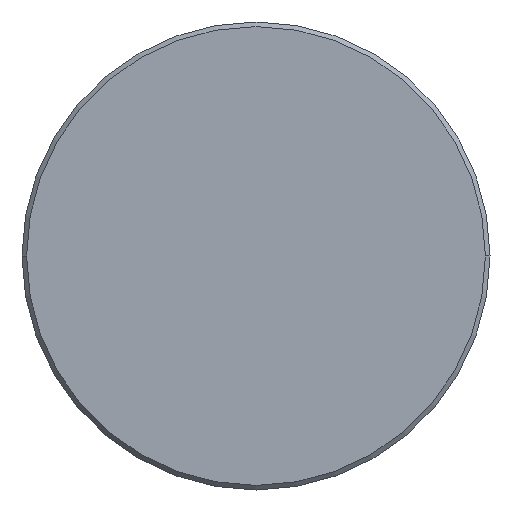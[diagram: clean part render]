
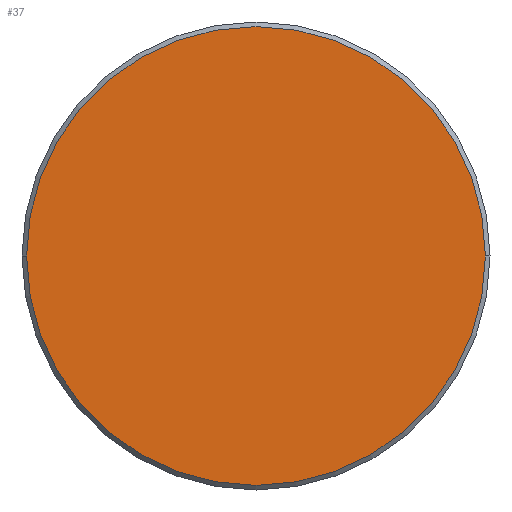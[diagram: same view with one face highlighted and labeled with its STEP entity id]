
A CAD part, left-side view. The second image highlights one B-rep face of the part: STEP entity #37.
In plain terms, the highlighted planar face has unit normal (-1, 0, 0).
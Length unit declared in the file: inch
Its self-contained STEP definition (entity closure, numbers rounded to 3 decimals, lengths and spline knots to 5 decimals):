
#4 = CIRCLE ( 'NONE', #203, 0.19913 ) ;
#21 = EDGE_LOOP ( 'NONE', ( #71, #374 ) ) ;
#28 = FACE_OUTER_BOUND ( 'NONE', #21, .T. ) ;
#37 = ADVANCED_FACE ( 'NONE', ( #28 ), #147, .T. ) ;
#39 = VERTEX_POINT ( 'NONE', #358 ) ;
#71 = ORIENTED_EDGE ( 'NONE', *, *, #212, .T. ) ;
#74 = EDGE_CURVE ( 'NONE', #39, #218, #241, .T. ) ;
#89 = DIRECTION ( 'NONE',  ( -1., 0., 0. ) ) ;
#95 = DIRECTION ( 'NONE',  ( -1., 0., 0. ) ) ;
#110 = CARTESIAN_POINT ( 'NONE',  ( 0., 0., 0. ) ) ;
#122 = AXIS2_PLACEMENT_3D ( 'NONE', #258, #95, #187 ) ;
#127 = DIRECTION ( 'NONE',  ( 0., -1., 0. ) ) ;
#147 = PLANE ( 'NONE',  #171 ) ;
#166 = DIRECTION ( 'NONE',  ( -1., 0., 0. ) ) ;
#171 = AXIS2_PLACEMENT_3D ( 'NONE', #177, #89, #127 ) ;
#177 = CARTESIAN_POINT ( 'NONE',  ( 0., 0., 0. ) ) ;
#187 = DIRECTION ( 'NONE',  ( 0., -1., 0. ) ) ;
#203 = AXIS2_PLACEMENT_3D ( 'NONE', #110, #166, #259 ) ;
#212 = EDGE_CURVE ( 'NONE', #218, #39, #4, .T. ) ;
#218 = VERTEX_POINT ( 'NONE', #341 ) ;
#241 = CIRCLE ( 'NONE', #122, 0.19913 ) ;
#258 = CARTESIAN_POINT ( 'NONE',  ( 0., 0., 0. ) ) ;
#259 = DIRECTION ( 'NONE',  ( 0., -1., 0. ) ) ;
#341 = CARTESIAN_POINT ( 'NONE',  ( 0., 0.19913, 0. ) ) ;
#358 = CARTESIAN_POINT ( 'NONE',  ( 0., -0.19913, 0. ) ) ;
#374 = ORIENTED_EDGE ( 'NONE', *, *, #74, .T. ) ;
